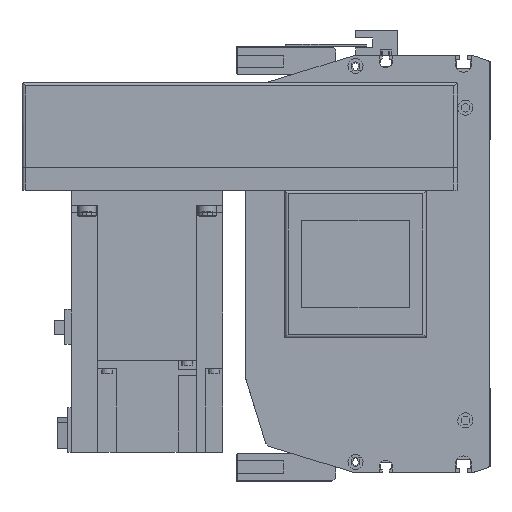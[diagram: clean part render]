
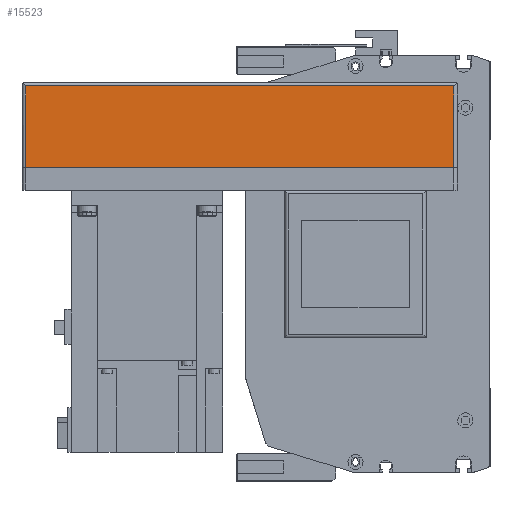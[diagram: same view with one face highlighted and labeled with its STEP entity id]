
A CAD part, left-side view. The second image highlights one B-rep face of the part: STEP entity #15523.
In plain terms, the highlighted planar face has unit normal (-1, 0, 0) as drawn and (0, 1, 0) by its records, which use the part's own axes.
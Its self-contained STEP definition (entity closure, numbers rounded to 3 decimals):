
#2628=ORIENTED_EDGE('',*,*,#6310,.F.);
#2629=ORIENTED_EDGE('',*,*,#6250,.T.);
#2630=ORIENTED_EDGE('',*,*,#6311,.F.);
#2631=ORIENTED_EDGE('',*,*,#6245,.F.);
#6245=EDGE_CURVE('',#8232,#8233,#9838,.T.);
#6250=EDGE_CURVE('',#8238,#8237,#9840,.T.);
#6310=EDGE_CURVE('',#8238,#8232,#9883,.T.);
#6311=EDGE_CURVE('',#8233,#8237,#9884,.T.);
#8232=VERTEX_POINT('',#24192);
#8233=VERTEX_POINT('',#24194);
#8237=VERTEX_POINT('',#24203);
#8238=VERTEX_POINT('',#24205);
#9838=LINE('',#24193,#11197);
#9840=LINE('',#24204,#11199);
#9883=LINE('',#24327,#11242);
#9884=LINE('',#24328,#11243);
#11197=VECTOR('',#19299,1000.);
#11199=VECTOR('',#19309,1000.);
#11242=VECTOR('',#19430,1000.);
#11243=VECTOR('',#19431,1000.);
#12410=EDGE_LOOP('',(#2628,#2629,#2630,#2631));
#13721=FACE_BOUND('',#12410,.T.);
#14870=PLANE('',#16672);
#15523=ADVANCED_FACE('',(#13721),#14870,.T.);
#16672=AXIS2_PLACEMENT_3D('',#24326,#19428,#19429);
#19299=DIRECTION('',(0.,0.,1.));
#19309=DIRECTION('',(0.,0.,1.));
#19428=DIRECTION('',(0.,1.,0.));
#19429=DIRECTION('',(0.,0.,1.));
#19430=DIRECTION('',(1.,0.,0.));
#19431=DIRECTION('',(-1.,0.,0.));
#24192=CARTESIAN_POINT('',(-2.,54.,-55.));
#24193=CARTESIAN_POINT('',(-2.,54.,-57.));
#24194=CARTESIAN_POINT('',(-2.,54.,-12.));
#24203=CARTESIAN_POINT('',(-228.,54.,-12.));
#24204=CARTESIAN_POINT('',(-228.,54.,-57.));
#24205=CARTESIAN_POINT('',(-228.,54.,-55.));
#24326=CARTESIAN_POINT('',(-2.,54.,-57.));
#24327=CARTESIAN_POINT('',(-230.,54.,-55.));
#24328=CARTESIAN_POINT('',(-2.,54.,-12.));
